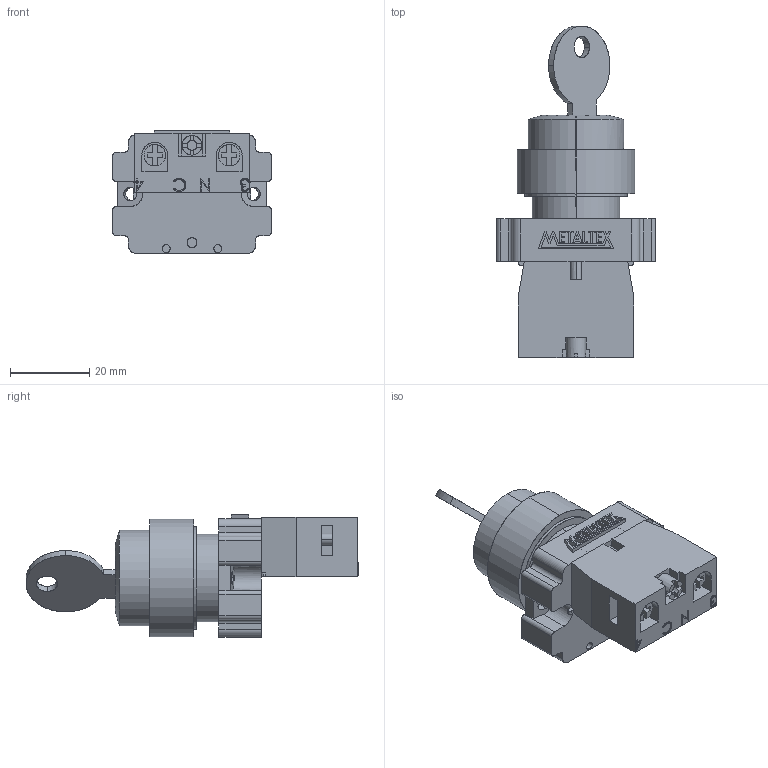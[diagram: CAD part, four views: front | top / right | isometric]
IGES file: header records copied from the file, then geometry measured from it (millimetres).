
Start section: SolidWorks IGES file using analytic representation for surfaces
Global section: file name: D:\X - Arquivos\PROEX\Empresas\P11 - METALTEX\01 - Produtos\IGES\Segunda remessa\M20KNR2-B-1A.IGS; native system: SolidWorks 2012; preprocessor: SolidWorks 2012; author: Usuario; date: 180117.122008; units: millimetre
Bounding box: 40 x 83.55 x 30.9 mm (x, y, z)
Surface area: 13269 mm2 (no closed solid volume)
Topology: 0 solids, 0 shells, 390 faces, 4327 edges, 4327 vertices
Faces by surface type: bspline 303, revolution 87
